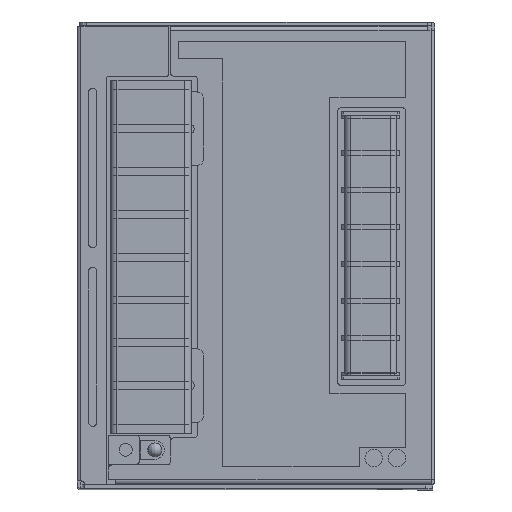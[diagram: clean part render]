
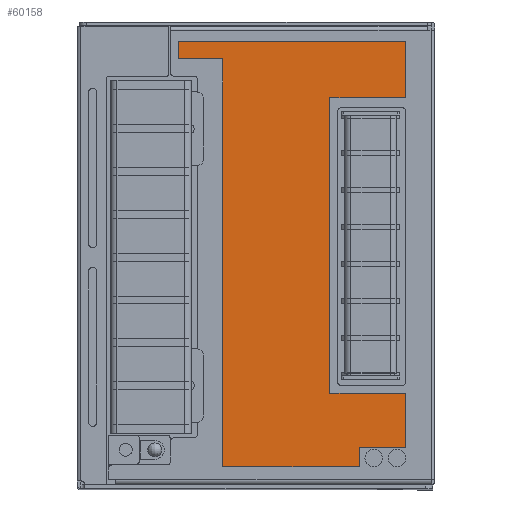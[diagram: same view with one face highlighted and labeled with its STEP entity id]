
A CAD part, top view. The second image highlights one B-rep face of the part: STEP entity #60158.
In plain terms, the highlighted planar face has unit normal (0, 0, 1).
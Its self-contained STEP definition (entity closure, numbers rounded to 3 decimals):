
#45461 = CARTESIAN_POINT ( 'NONE',  ( -7.5, 115., -1. ) ) ;
#45462 = CARTESIAN_POINT ( 'NONE',  ( -7.5, 100.5, -1. ) ) ;
#45463 = DIRECTION ( 'NONE',  ( 1., 0., 0. ) ) ;
#45464 = VECTOR ( 'NONE', #45463, 1000. ) ;
#45465 = CARTESIAN_POINT ( 'NONE',  ( -27., 100.5, -1. ) ) ;
#45466 = LINE ( 'NONE', #45465, #45464 ) ;
#45467 = CARTESIAN_POINT ( 'NONE',  ( -27., 100.5, -1. ) ) ;
#45468 = DIRECTION ( 'NONE',  ( 0., 1., 0. ) ) ;
#45469 = VECTOR ( 'NONE', #45468, 1000. ) ;
#45470 = CARTESIAN_POINT ( 'NONE',  ( -27., 24.5, -1. ) ) ;
#45471 = LINE ( 'NONE', #45470, #45469 ) ;
#45472 = DIRECTION ( 'NONE',  ( -1., 0., 0. ) ) ;
#45473 = VECTOR ( 'NONE', #45472, 1000. ) ;
#45474 = CARTESIAN_POINT ( 'NONE',  ( -7.5, 24.5, -1. ) ) ;
#45475 = LINE ( 'NONE', #45474, #45473 ) ;
#45496 = FACE_OUTER_BOUND ( 'NONE', #60176, .T. ) ;
#45531 = DIRECTION ( 'NONE',  ( -1., 0., 0. ) ) ;
#45532 = DIRECTION ( 'NONE',  ( 0., 0., -1. ) ) ;
#45533 = CARTESIAN_POINT ( 'NONE',  ( -91., 119., -1. ) ) ;
#45534 = AXIS2_PLACEMENT_3D ( 'NONE', #45533, #45532, #45531 ) ;
#45535 = PLANE ( 'NONE',  #45534 ) ;
#45609 = DIRECTION ( 'NONE',  ( 0., 1., 0. ) ) ;
#45610 = VECTOR ( 'NONE', #45609, 1000. ) ;
#45611 = CARTESIAN_POINT ( 'NONE',  ( -19.503, 5.6, -1. ) ) ;
#45612 = LINE ( 'NONE', #45611, #45610 ) ;
#45613 = CARTESIAN_POINT ( 'NONE',  ( -19.503, 5.6, -1. ) ) ;
#45614 = CARTESIAN_POINT ( 'NONE',  ( -54.5, 5.6, -1. ) ) ;
#45615 = DIRECTION ( 'NONE',  ( 1., 0., 0. ) ) ;
#45616 = VECTOR ( 'NONE', #45615, 1000. ) ;
#45617 = CARTESIAN_POINT ( 'NONE',  ( -54.5, 5.6, -1. ) ) ;
#45618 = LINE ( 'NONE', #45617, #45616 ) ;
#45722 = CARTESIAN_POINT ( 'NONE',  ( -27., 24.5, -1. ) ) ;
#45723 = CARTESIAN_POINT ( 'NONE',  ( -7.5, 24.5, -1. ) ) ;
#45724 = DIRECTION ( 'NONE',  ( 0., 1., 0. ) ) ;
#45725 = VECTOR ( 'NONE', #45724, 1000. ) ;
#45726 = CARTESIAN_POINT ( 'NONE',  ( -7.5, 10.6, -1. ) ) ;
#45727 = LINE ( 'NONE', #45726, #45725 ) ;
#45728 = CARTESIAN_POINT ( 'NONE',  ( -7.5, 10.6, -1. ) ) ;
#45729 = DIRECTION ( 'NONE',  ( 1., 0., 0. ) ) ;
#45730 = VECTOR ( 'NONE', #45729, 1000. ) ;
#45731 = CARTESIAN_POINT ( 'NONE',  ( -19.503, 10.6, -1. ) ) ;
#45732 = LINE ( 'NONE', #45731, #45730 ) ;
#45733 = CARTESIAN_POINT ( 'NONE',  ( -19.503, 10.6, -1. ) ) ;
#45746 = CARTESIAN_POINT ( 'NONE',  ( -66., 110.5, -1. ) ) ;
#45747 = DIRECTION ( 'NONE',  ( 0., -1., 0. ) ) ;
#45748 = VECTOR ( 'NONE', #45747, 1000. ) ;
#45749 = CARTESIAN_POINT ( 'NONE',  ( -66., 115., -1. ) ) ;
#45750 = LINE ( 'NONE', #45749, #45748 ) ;
#45751 = CARTESIAN_POINT ( 'NONE',  ( -66., 115., -1. ) ) ;
#45752 = DIRECTION ( 'NONE',  ( -1., 0., 0. ) ) ;
#45753 = VECTOR ( 'NONE', #45752, 1000. ) ;
#45754 = CARTESIAN_POINT ( 'NONE',  ( -7.5, 115., -1. ) ) ;
#45755 = LINE ( 'NONE', #45754, #45753 ) ;
#45756 = DIRECTION ( 'NONE',  ( 0., 1., 0. ) ) ;
#45757 = VECTOR ( 'NONE', #45756, 1000. ) ;
#45758 = CARTESIAN_POINT ( 'NONE',  ( -7.5, 100.5, -1. ) ) ;
#45759 = LINE ( 'NONE', #45758, #45757 ) ;
#47292 = DIRECTION ( 'NONE',  ( 1., 0., 0. ) ) ;
#47293 = VECTOR ( 'NONE', #47292, 1000. ) ;
#47294 = CARTESIAN_POINT ( 'NONE',  ( -66., 110.5, -1. ) ) ;
#47295 = LINE ( 'NONE', #47294, #47293 ) ;
#47319 = CARTESIAN_POINT ( 'NONE',  ( -54.5, 110.5, -1. ) ) ;
#47697 = DIRECTION ( 'NONE',  ( 0., -1., 0. ) ) ;
#47698 = VECTOR ( 'NONE', #47697, 1000. ) ;
#47699 = CARTESIAN_POINT ( 'NONE',  ( -54.5, 110.5, -1. ) ) ;
#47700 = LINE ( 'NONE', #47699, #47698 ) ;
#60141 = EDGE_CURVE ( 'NONE', #60223, #60225, #45475, .T. ) ;
#60142 = ORIENTED_EDGE ( 'NONE', *, *, #60143, .T. ) ;
#60143 = EDGE_CURVE ( 'NONE', #60225, #60144, #45471, .T. ) ;
#60144 = VERTEX_POINT ( 'NONE', #45467 ) ;
#60145 = ORIENTED_EDGE ( 'NONE', *, *, #60146, .T. ) ;
#60146 = EDGE_CURVE ( 'NONE', #60144, #60147, #45466, .T. ) ;
#60147 = VERTEX_POINT ( 'NONE', #45462 ) ;
#60148 = VERTEX_POINT ( 'NONE', #45461 ) ;
#60158 = ADVANCED_FACE ( 'NONE', ( #45496 ), #45535, .F. ) ;
#60176 = EDGE_LOOP ( 'NONE', ( #60177, #60181, #60218, #60221, #60224, #60142, #60145, #60236, #60238, #60241, #60244, #60888 ) ) ;
#60177 = ORIENTED_EDGE ( 'NONE', *, *, #60178, .T. ) ;
#60178 = EDGE_CURVE ( 'NONE', #60179, #60180, #45618, .T. ) ;
#60179 = VERTEX_POINT ( 'NONE', #45614 ) ;
#60180 = VERTEX_POINT ( 'NONE', #45613 ) ;
#60181 = ORIENTED_EDGE ( 'NONE', *, *, #60182, .T. ) ;
#60182 = EDGE_CURVE ( 'NONE', #60180, #60217, #45612, .T. ) ;
#60217 = VERTEX_POINT ( 'NONE', #45733 ) ;
#60218 = ORIENTED_EDGE ( 'NONE', *, *, #60219, .T. ) ;
#60219 = EDGE_CURVE ( 'NONE', #60217, #60220, #45732, .T. ) ;
#60220 = VERTEX_POINT ( 'NONE', #45728 ) ;
#60221 = ORIENTED_EDGE ( 'NONE', *, *, #60222, .T. ) ;
#60222 = EDGE_CURVE ( 'NONE', #60220, #60223, #45727, .T. ) ;
#60223 = VERTEX_POINT ( 'NONE', #45723 ) ;
#60224 = ORIENTED_EDGE ( 'NONE', *, *, #60141, .T. ) ;
#60225 = VERTEX_POINT ( 'NONE', #45722 ) ;
#60236 = ORIENTED_EDGE ( 'NONE', *, *, #60237, .T. ) ;
#60237 = EDGE_CURVE ( 'NONE', #60147, #60148, #45759, .T. ) ;
#60238 = ORIENTED_EDGE ( 'NONE', *, *, #60239, .T. ) ;
#60239 = EDGE_CURVE ( 'NONE', #60148, #60240, #45755, .T. ) ;
#60240 = VERTEX_POINT ( 'NONE', #45751 ) ;
#60241 = ORIENTED_EDGE ( 'NONE', *, *, #60242, .T. ) ;
#60242 = EDGE_CURVE ( 'NONE', #60240, #60243, #45750, .T. ) ;
#60243 = VERTEX_POINT ( 'NONE', #45746 ) ;
#60244 = ORIENTED_EDGE ( 'NONE', *, *, #60714, .T. ) ;
#60714 = EDGE_CURVE ( 'NONE', #60243, #60729, #47295, .T. ) ;
#60729 = VERTEX_POINT ( 'NONE', #47319 ) ;
#60888 = ORIENTED_EDGE ( 'NONE', *, *, #60901, .T. ) ;
#60901 = EDGE_CURVE ( 'NONE', #60729, #60179, #47700, .T. ) ;
